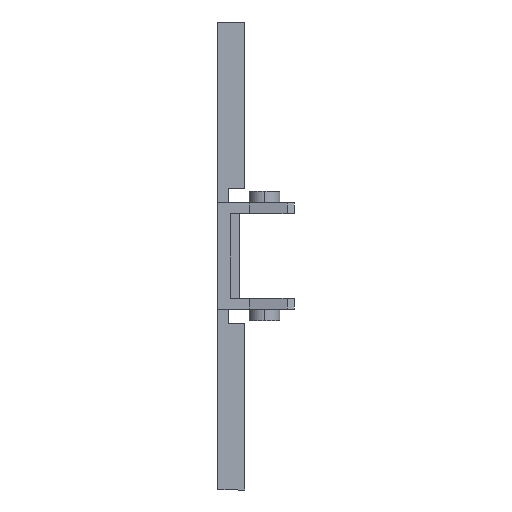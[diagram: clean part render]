
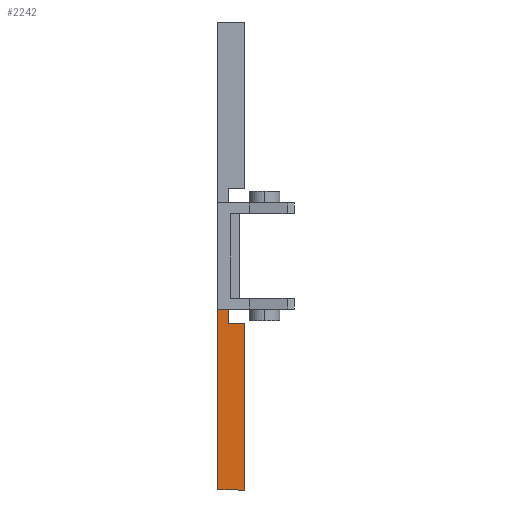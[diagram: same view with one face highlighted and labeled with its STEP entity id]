
A CAD part, front view. The second image highlights one B-rep face of the part: STEP entity #2242.
In plain terms, the highlighted planar face has unit normal (0, -1, 0).
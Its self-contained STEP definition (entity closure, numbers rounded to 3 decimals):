
#81 = EDGE_CURVE ( 'NONE', #1664, #1492, #666, .T. ) ;
#147 = EDGE_CURVE ( 'NONE', #1664, #1491, #589, .T. ) ;
#195 = EDGE_CURVE ( 'NONE', #1495, #1491, #549, .T. ) ;
#212 = EDGE_CURVE ( 'NONE', #1494, #1495, #497, .T. ) ;
#286 = EDGE_CURVE ( 'NONE', #1493, #1494, #409, .T. ) ;
#294 = AXIS2_PLACEMENT_3D ( 'NONE', #2326, #2320, #2319 ) ;
#336 = EDGE_CURVE ( 'NONE', #1492, #1493, #2543, .T. ) ;
#408 = VECTOR ( 'NONE', #1977, 1000. ) ;
#409 = LINE ( 'NONE', #1976, #408 ) ;
#496 = VECTOR ( 'NONE', #1787, 1000. ) ;
#497 = LINE ( 'NONE', #1786, #496 ) ;
#522 = VECTOR ( 'NONE', #1811, 1000. ) ;
#549 = LINE ( 'NONE', #1830, #522 ) ;
#583 = VECTOR ( 'NONE', #1878, 1000. ) ;
#589 = LINE ( 'NONE', #1881, #583 ) ;
#665 = VECTOR ( 'NONE', #1724, 1000. ) ;
#666 = LINE ( 'NONE', #1723, #665 ) ;
#937 = ORIENTED_EDGE ( 'NONE', *, *, #286, .T. ) ;
#938 = ORIENTED_EDGE ( 'NONE', *, *, #212, .T. ) ;
#939 = ORIENTED_EDGE ( 'NONE', *, *, #195, .T. ) ;
#995 = ORIENTED_EDGE ( 'NONE', *, *, #147, .F. ) ;
#996 = ORIENTED_EDGE ( 'NONE', *, *, #81, .T. ) ;
#997 = ORIENTED_EDGE ( 'NONE', *, *, #336, .T. ) ;
#1095 = CARTESIAN_POINT ( 'NONE',  ( 0., -9., -5.9 ) ) ;
#1280 = EDGE_LOOP ( 'NONE', ( #995, #996, #997, #937, #938, #939 ) ) ;
#1491 = VERTEX_POINT ( 'NONE', #2089 ) ;
#1492 = VERTEX_POINT ( 'NONE', #2090 ) ;
#1493 = VERTEX_POINT ( 'NONE', #2091 ) ;
#1494 = VERTEX_POINT ( 'NONE', #2085 ) ;
#1495 = VERTEX_POINT ( 'NONE', #2086 ) ;
#1664 = VERTEX_POINT ( 'NONE', #1095 ) ;
#1723 = CARTESIAN_POINT ( 'NONE',  ( 0., -9., -26. ) ) ;
#1724 = DIRECTION ( 'NONE',  ( 0., 0., -1. ) ) ;
#1786 = CARTESIAN_POINT ( 'NONE',  ( 1.2, -9., -7.5 ) ) ;
#1787 = DIRECTION ( 'NONE',  ( -1., 0., 0. ) ) ;
#1811 = DIRECTION ( 'NONE',  ( 0., 0., 1. ) ) ;
#1830 = CARTESIAN_POINT ( 'NONE',  ( 1.2, -9., -5. ) ) ;
#1878 = DIRECTION ( 'NONE',  ( 1., 0., 0. ) ) ;
#1881 = CARTESIAN_POINT ( 'NONE',  ( 1.2, -9., -5.9 ) ) ;
#1976 = CARTESIAN_POINT ( 'NONE',  ( 3., -9., -7.5 ) ) ;
#1977 = DIRECTION ( 'NONE',  ( 0., 0., 1. ) ) ;
#2042 = CARTESIAN_POINT ( 'NONE',  ( 3., -9., -26. ) ) ;
#2043 = DIRECTION ( 'NONE',  ( 1., 0., 0. ) ) ;
#2085 = CARTESIAN_POINT ( 'NONE',  ( 3., -9., -7.5 ) ) ;
#2086 = CARTESIAN_POINT ( 'NONE',  ( 1.2, -9., -7.5 ) ) ;
#2089 = CARTESIAN_POINT ( 'NONE',  ( 1.2, -9., -5.9 ) ) ;
#2090 = CARTESIAN_POINT ( 'NONE',  ( 0., -9., -26. ) ) ;
#2091 = CARTESIAN_POINT ( 'NONE',  ( 3., -9., -26. ) ) ;
#2242 = ADVANCED_FACE ( 'NONE', ( #2611 ), #2328, .F. ) ;
#2319 = DIRECTION ( 'NONE',  ( 0., 0., 1. ) ) ;
#2320 = DIRECTION ( 'NONE',  ( 0., 1., 0. ) ) ;
#2326 = CARTESIAN_POINT ( 'NONE',  ( 1.2, -9., -5. ) ) ;
#2328 = PLANE ( 'NONE',  #294 ) ;
#2543 = LINE ( 'NONE', #2042, #2552 ) ;
#2552 = VECTOR ( 'NONE', #2043, 1000. ) ;
#2611 = FACE_OUTER_BOUND ( 'NONE', #1280, .T. ) ;
